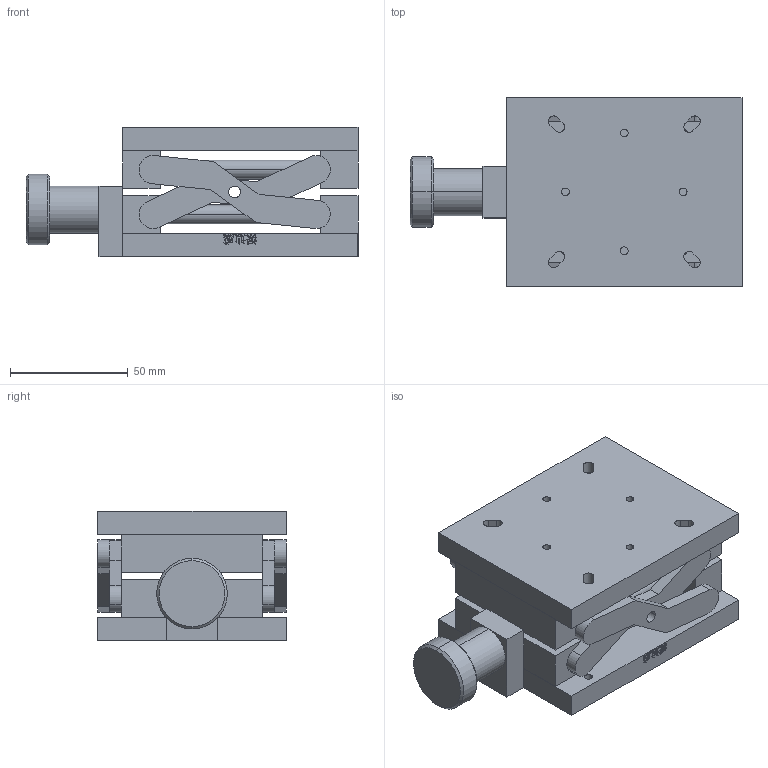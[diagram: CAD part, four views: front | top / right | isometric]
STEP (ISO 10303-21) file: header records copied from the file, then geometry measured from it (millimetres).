
FILE_DESCRIPTION (( 'STEP AP203' ), '1' );
FILE_NAME ('PT-SD50.STEP', '2022-09-04T10:05:09', ( '' ), ( '' ), 'SwSTEP 2.0', 'SolidWorks 2020', '' );
FILE_SCHEMA (( 'CONFIG_CONTROL_DESIGN' ));
Length unit declared in the file: millimetre
Products named in the file (7): 44; 錨璃8^PT-SD50; 錨璃7^PT-SD50; 錨璃10^PT-SD50; PT-SD50; 錨璃6^PT-SD50; 錨璃9^PT-SD50
Assembly tree (10 placements, depth 2):
  PT-SD50
    錨璃6^PT-SD50
    錨璃7^PT-SD50  x2
    44
    錨璃8^PT-SD50
    錨璃9^PT-SD50
    錨璃10^PT-SD50  x4
Bounding box: 141 x 80 x 55 mm (x, y, z)
Volume: 270535.5 mm3; surface area: 82939.6 mm2
Topology: 10 solids, 10 shells, 398 faces, 1039 edges, 678 vertices
Faces by surface type: plane 204, cylinder 98, bspline 76, cone 20
Entity records: 14285 total; most frequent: CARTESIAN_POINT 5490, ORIENTED_EDGE 1744, DIRECTION 1418, EDGE_CURVE 872, VERTEX_POINT 578, LINE 566, VECTOR 566, AXIS2_PLACEMENT_3D 426
